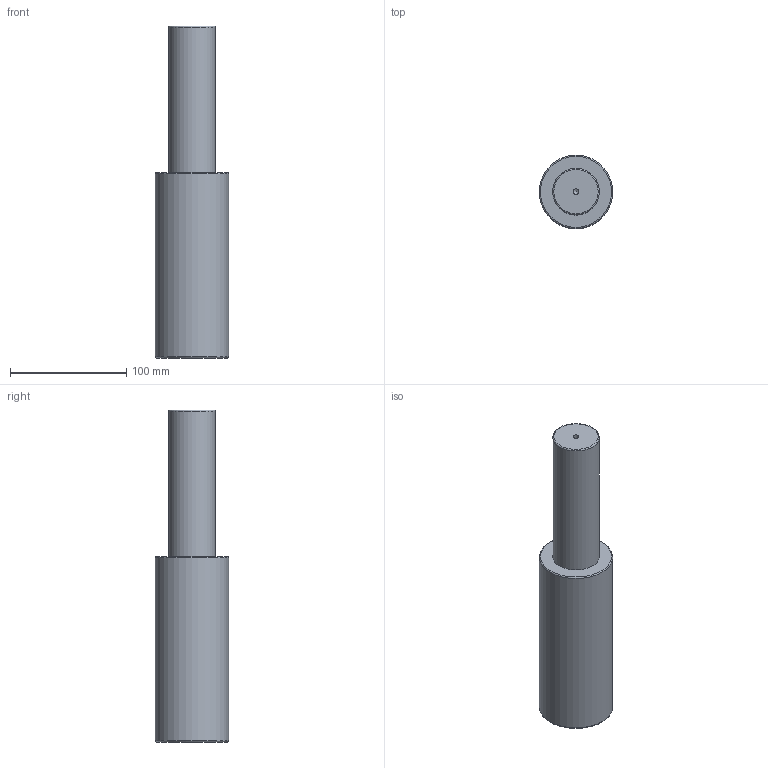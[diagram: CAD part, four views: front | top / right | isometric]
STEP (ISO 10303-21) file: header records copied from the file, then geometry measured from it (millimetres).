
FILE_DESCRIPTION(/* description */ (''),/* implementation_level */ '2;1');
FILE_NAME(/* name */ 'NV5-SMLX.63x125.stp',/* time_stamp */ '2018-08-31T16:08:32+02:00',/* author */ (''),/* organization */ (''),/* preprocessor_version */ 'ST-DEVELOPER v16',/* originating_system */ 'SIEMENS PLM Software NX 10.0',/* authorisation */ '');
FILE_SCHEMA (('AUTOMOTIVE_DESIGN { 1 0 10303 214 3 1 1 1 }'));
Length unit declared in the file: millimetre
Products named in the file (1): NV5-SMLX.63x125
Bounding box: 63 x 63 x 285 mm (x, y, z)
Volume: 652458.2 mm3; surface area: 54031.9 mm2
Topology: 1 solids, 1 shells, 12 faces, 24 edges, 15 vertices
Faces by surface type: cylinder 4, torus 3, plane 3, cone 2
Full cylindrical faces by diameter (mm): 5 x1, 8.5 x1, 40 x1, 63 x1
Entity records: 266 total; most frequent: DIRECTION 48, CARTESIAN_POINT 37, FACE_BOUND 24, AXIS2_PLACEMENT_3D 24, EDGE_LOOP 22, ORIENTED_EDGE 22, VERTEX_POINT 13, ADVANCED_FACE 12
